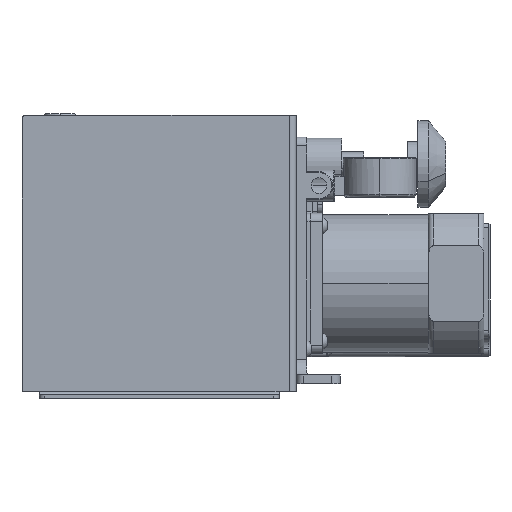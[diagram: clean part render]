
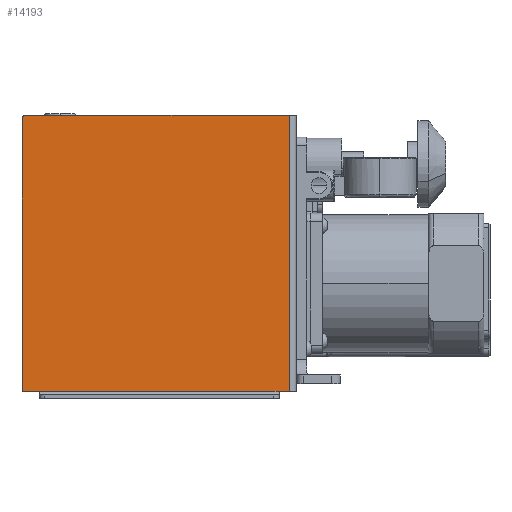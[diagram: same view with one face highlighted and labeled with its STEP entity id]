
A CAD part, left-side view. The second image highlights one B-rep face of the part: STEP entity #14193.
In plain terms, the highlighted planar face has unit normal (-1, 0, 0).
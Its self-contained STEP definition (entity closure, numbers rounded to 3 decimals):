
#725 = EDGE_CURVE ( 'NONE', #23798, #14906, #18493, .T. ) ;
#1158 = DIRECTION ( 'NONE',  ( 0., 1., 0. ) ) ;
#1476 = PLANE ( 'NONE',  #11800 ) ;
#1938 = CIRCLE ( 'NONE', #14485, 2. ) ;
#3252 = VERTEX_POINT ( 'NONE', #23405 ) ;
#4424 = LINE ( 'NONE', #21195, #16229 ) ;
#4998 = VECTOR ( 'NONE', #20882, 1000. ) ;
#5449 = ORIENTED_EDGE ( 'NONE', *, *, #20657, .F. ) ;
#5717 = LINE ( 'NONE', #23715, #22775 ) ;
#5803 = CARTESIAN_POINT ( 'NONE',  ( 54.159, 225.102, 218.131 ) ) ;
#6323 = ORIENTED_EDGE ( 'NONE', *, *, #725, .F. ) ;
#7911 = DIRECTION ( 'NONE',  ( 0., -1., 0. ) ) ;
#8561 = EDGE_CURVE ( 'NONE', #3252, #14906, #1938, .T. ) ;
#8793 = ORIENTED_EDGE ( 'NONE', *, *, #8561, .T. ) ;
#9331 = VERTEX_POINT ( 'NONE', #15034 ) ;
#10211 = DIRECTION ( 'NONE',  ( 0., 1., 0. ) ) ;
#10227 = CARTESIAN_POINT ( 'NONE',  ( 54.159, 144.102, 223.131 ) ) ;
#10286 = DIRECTION ( 'NONE',  ( 0., 0., 1. ) ) ;
#10922 = LINE ( 'NONE', #23409, #4998 ) ;
#11288 = LINE ( 'NONE', #22700, #27605 ) ;
#11800 = AXIS2_PLACEMENT_3D ( 'NONE', #10227, #12548, #16699 ) ;
#12004 = VERTEX_POINT ( 'NONE', #28385 ) ;
#12330 = EDGE_LOOP ( 'NONE', ( #24053, #8793, #6323, #28614, #23863, #5449, #26393 ) ) ;
#12548 = DIRECTION ( 'NONE',  ( -1., 0., 0. ) ) ;
#13449 = CARTESIAN_POINT ( 'NONE',  ( 54.159, 225.102, 375.131 ) ) ;
#14193 = ADVANCED_FACE ( 'NONE', ( #22225 ), #1476, .T. ) ;
#14485 = AXIS2_PLACEMENT_3D ( 'NONE', #17284, #17382, #17583 ) ;
#14780 = DIRECTION ( 'NONE',  ( 0., 0., 1. ) ) ;
#14807 = CARTESIAN_POINT ( 'NONE',  ( 54.159, 225.102, 377.131 ) ) ;
#14906 = VERTEX_POINT ( 'NONE', #13449 ) ;
#15034 = CARTESIAN_POINT ( 'NONE',  ( 54.159, 77.102, 218.131 ) ) ;
#15981 = VERTEX_POINT ( 'NONE', #16356 ) ;
#16229 = VECTOR ( 'NONE', #7911, 1000. ) ;
#16356 = CARTESIAN_POINT ( 'NONE',  ( 54.159, 71.102, 218.131 ) ) ;
#16699 = DIRECTION ( 'NONE',  ( 0., 1., 0. ) ) ;
#17284 = CARTESIAN_POINT ( 'NONE',  ( 54.159, 223.102, 375.131 ) ) ;
#17382 = DIRECTION ( 'NONE',  ( -1., 0., 0. ) ) ;
#17583 = DIRECTION ( 'NONE',  ( 0., -1., 0. ) ) ;
#18132 = EDGE_CURVE ( 'NONE', #3252, #25248, #4424, .T. ) ;
#18493 = LINE ( 'NONE', #14807, #25098 ) ;
#20657 = EDGE_CURVE ( 'NONE', #15981, #9331, #11288, .T. ) ;
#20882 = DIRECTION ( 'NONE',  ( 0., 1., 0. ) ) ;
#21195 = CARTESIAN_POINT ( 'NONE',  ( 54.159, 69.102, 377.131 ) ) ;
#22225 = FACE_OUTER_BOUND ( 'NONE', #12330, .T. ) ;
#22334 = EDGE_CURVE ( 'NONE', #9331, #12004, #28111, .T. ) ;
#22502 = CARTESIAN_POINT ( 'NONE',  ( 54.159, 225.102, 218.131 ) ) ;
#22700 = CARTESIAN_POINT ( 'NONE',  ( 54.159, 225.102, 218.131 ) ) ;
#22775 = VECTOR ( 'NONE', #14780, 1000. ) ;
#23405 = CARTESIAN_POINT ( 'NONE',  ( 54.159, 223.102, 377.131 ) ) ;
#23409 = CARTESIAN_POINT ( 'NONE',  ( 54.159, 225.102, 218.131 ) ) ;
#23715 = CARTESIAN_POINT ( 'NONE',  ( 54.159, 71.102, 223.131 ) ) ;
#23798 = VERTEX_POINT ( 'NONE', #22502 ) ;
#23863 = ORIENTED_EDGE ( 'NONE', *, *, #22334, .F. ) ;
#24053 = ORIENTED_EDGE ( 'NONE', *, *, #18132, .F. ) ;
#25098 = VECTOR ( 'NONE', #10286, 1000. ) ;
#25248 = VERTEX_POINT ( 'NONE', #26976 ) ;
#26393 = ORIENTED_EDGE ( 'NONE', *, *, #27371, .T. ) ;
#26976 = CARTESIAN_POINT ( 'NONE',  ( 54.159, 71.102, 377.131 ) ) ;
#27101 = VECTOR ( 'NONE', #10211, 1000. ) ;
#27371 = EDGE_CURVE ( 'NONE', #15981, #25248, #5717, .T. ) ;
#27605 = VECTOR ( 'NONE', #1158, 1000. ) ;
#28111 = LINE ( 'NONE', #5803, #27101 ) ;
#28224 = EDGE_CURVE ( 'NONE', #12004, #23798, #10922, .T. ) ;
#28385 = CARTESIAN_POINT ( 'NONE',  ( 54.159, 215.102, 218.131 ) ) ;
#28614 = ORIENTED_EDGE ( 'NONE', *, *, #28224, .F. ) ;
